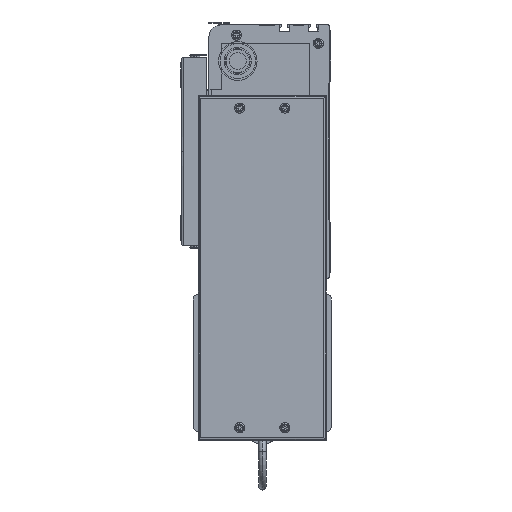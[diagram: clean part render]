
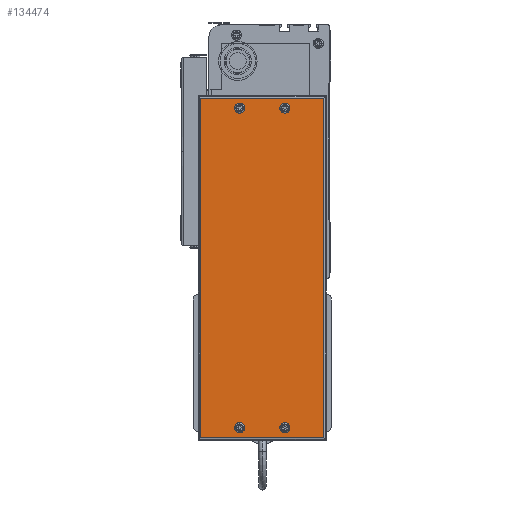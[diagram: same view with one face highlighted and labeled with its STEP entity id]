
A CAD part, left-side view. The second image highlights one B-rep face of the part: STEP entity #134474.
In plain terms, the highlighted planar face has unit normal (-1, 0, 0) as drawn and (1, 0, 0) by its records, which use the part's own axes.
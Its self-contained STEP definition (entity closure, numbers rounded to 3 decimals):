
#133626 = VERTEX_POINT ( 'NONE', #144906 ) ;
#133633 = VERTEX_POINT ( 'NONE', #144854 ) ;
#133819 = VERTEX_POINT ( 'NONE', #145511 ) ;
#133893 = EDGE_CURVE ( 'NONE', #133626, #133633, #145639, .T. ) ;
#133895 = VERTEX_POINT ( 'NONE', #145641 ) ;
#133898 = VERTEX_POINT ( 'NONE', #145640 ) ;
#133904 = EDGE_CURVE ( 'NONE', #133819, #133898, #145549, .T. ) ;
#133977 = VERTEX_POINT ( 'NONE', #146305 ) ;
#133979 = EDGE_CURVE ( 'NONE', #133895, #133977, #146289, .T. ) ;
#134178 = ORIENTED_EDGE ( 'NONE', *, *, #134224, .T. ) ;
#134181 = EDGE_CURVE ( 'NONE', #134222, #134237, #147017, .T. ) ;
#134183 = EDGE_CURVE ( 'NONE', #133633, #133626, #147016, .T. ) ;
#134185 = ORIENTED_EDGE ( 'NONE', *, *, #134181, .T. ) ;
#134204 = VERTEX_POINT ( 'NONE', #147179 ) ;
#134222 = VERTEX_POINT ( 'NONE', #147173 ) ;
#134224 = EDGE_CURVE ( 'NONE', #134239, #134222, #147154, .T. ) ;
#134233 = ORIENTED_EDGE ( 'NONE', *, *, #133904, .F. ) ;
#134237 = VERTEX_POINT ( 'NONE', #147123 ) ;
#134239 = VERTEX_POINT ( 'NONE', #147167 ) ;
#134252 = VERTEX_POINT ( 'NONE', #147130 ) ;
#134408 = EDGE_LOOP ( 'NONE', ( #134412, #134233 ) ) ;
#134412 = ORIENTED_EDGE ( 'NONE', *, *, #134706, .F. ) ;
#134463 = ORIENTED_EDGE ( 'NONE', *, *, #133893, .F. ) ;
#134474 = ADVANCED_FACE ( 'NONE', ( #147313, #147235, #147306, #147318, #147328 ), #147323, .F. ) ;
#134476 = ORIENTED_EDGE ( 'NONE', *, *, #134481, .T. ) ;
#134478 = ORIENTED_EDGE ( 'NONE', *, *, #134485, .T. ) ;
#134481 = EDGE_CURVE ( 'NONE', #134252, #134239, #147407, .T. ) ;
#134485 = EDGE_CURVE ( 'NONE', #134237, #134252, #147399, .T. ) ;
#134508 = VERTEX_POINT ( 'NONE', #147410 ) ;
#134604 = EDGE_CURVE ( 'NONE', #133977, #133895, #147431, .T. ) ;
#134654 = EDGE_LOOP ( 'NONE', ( #134696, #134463 ) ) ;
#134660 = EDGE_LOOP ( 'NONE', ( #134478, #134476, #134178, #134185 ) ) ;
#134692 = EDGE_CURVE ( 'NONE', #134508, #134204, #147531, .T. ) ;
#134696 = ORIENTED_EDGE ( 'NONE', *, *, #134183, .F. ) ;
#134700 = EDGE_LOOP ( 'NONE', ( #134703, #134828 ) ) ;
#134703 = ORIENTED_EDGE ( 'NONE', *, *, #134604, .F. ) ;
#134706 = EDGE_CURVE ( 'NONE', #133898, #133819, #147488, .T. ) ;
#134809 = EDGE_LOOP ( 'NONE', ( #134825, #134905 ) ) ;
#134815 = EDGE_CURVE ( 'NONE', #134204, #134508, #147580, .T. ) ;
#134825 = ORIENTED_EDGE ( 'NONE', *, *, #134815, .F. ) ;
#134828 = ORIENTED_EDGE ( 'NONE', *, *, #133979, .F. ) ;
#134905 = ORIENTED_EDGE ( 'NONE', *, *, #134692, .F. ) ;
#144854 = CARTESIAN_POINT ( 'NONE',  ( 50., 10., -71.5 ) ) ;
#144906 = CARTESIAN_POINT ( 'NONE',  ( 50., 10., -66.5 ) ) ;
#145511 = CARTESIAN_POINT ( 'NONE',  ( 50., 10., -30.5 ) ) ;
#145549 = CIRCLE ( 'NONE', #145621, 2.5 ) ;
#145615 = DIRECTION ( 'NONE',  ( 0., 0., -1. ) ) ;
#145616 = DIRECTION ( 'NONE',  ( 1., 0., 0. ) ) ;
#145617 = CARTESIAN_POINT ( 'NONE',  ( 50., 10., -69. ) ) ;
#145618 = AXIS2_PLACEMENT_3D ( 'NONE', #145617, #145616, #145615 ) ;
#145621 = AXIS2_PLACEMENT_3D ( 'NONE', #145626, #145717, #145715 ) ;
#145626 = CARTESIAN_POINT ( 'NONE',  ( 50., 10., -33. ) ) ;
#145639 = CIRCLE ( 'NONE', #145618, 2.5 ) ;
#145640 = CARTESIAN_POINT ( 'NONE',  ( 50., 10., -35.5 ) ) ;
#145641 = CARTESIAN_POINT ( 'NONE',  ( 50., 264., -66.5 ) ) ;
#145715 = DIRECTION ( 'NONE',  ( 0., 0., -1. ) ) ;
#145717 = DIRECTION ( 'NONE',  ( 1., 0., 0. ) ) ;
#146213 = CARTESIAN_POINT ( 'NONE',  ( 50., 264., -69. ) ) ;
#146220 = DIRECTION ( 'NONE',  ( 1., 0., 0. ) ) ;
#146285 = DIRECTION ( 'NONE',  ( 0., 0., -1. ) ) ;
#146287 = AXIS2_PLACEMENT_3D ( 'NONE', #146213, #146220, #146285 ) ;
#146289 = CIRCLE ( 'NONE', #146287, 2.5 ) ;
#146305 = CARTESIAN_POINT ( 'NONE',  ( 50., 264., -71.5 ) ) ;
#147016 = CIRCLE ( 'NONE', #147031, 2.5 ) ;
#147017 = LINE ( 'NONE', #147092, #147091 ) ;
#147031 = AXIS2_PLACEMENT_3D ( 'NONE', #147108, #147080, #147078 ) ;
#147078 = DIRECTION ( 'NONE',  ( 0., 0., -1. ) ) ;
#147080 = DIRECTION ( 'NONE',  ( 1., 0., 0. ) ) ;
#147090 = DIRECTION ( 'NONE',  ( 0., 0., 1. ) ) ;
#147091 = VECTOR ( 'NONE', #147090, 1000. ) ;
#147092 = CARTESIAN_POINT ( 'NONE',  ( 50., 272., 0. ) ) ;
#147108 = CARTESIAN_POINT ( 'NONE',  ( 50., 10., -69. ) ) ;
#147123 = CARTESIAN_POINT ( 'NONE',  ( 50., 272., -2. ) ) ;
#147130 = CARTESIAN_POINT ( 'NONE',  ( 50., 2., -2. ) ) ;
#147141 = DIRECTION ( 'NONE',  ( 0., 1., 0. ) ) ;
#147143 = VECTOR ( 'NONE', #147141, 1000. ) ;
#147153 = CARTESIAN_POINT ( 'NONE',  ( 50., 274., -100. ) ) ;
#147154 = LINE ( 'NONE', #147153, #147143 ) ;
#147167 = CARTESIAN_POINT ( 'NONE',  ( 50., 2., -100. ) ) ;
#147173 = CARTESIAN_POINT ( 'NONE',  ( 50., 272., -100. ) ) ;
#147179 = CARTESIAN_POINT ( 'NONE',  ( 50., 264., -35.5 ) ) ;
#147235 = FACE_BOUND ( 'NONE', #134654, .T. ) ;
#147306 = FACE_BOUND ( 'NONE', #134408, .T. ) ;
#147311 = AXIS2_PLACEMENT_3D ( 'NONE', #147417, #147415, #147413 ) ;
#147313 = FACE_OUTER_BOUND ( 'NONE', #134660, .T. ) ;
#147318 = FACE_BOUND ( 'NONE', #134700, .T. ) ;
#147323 = PLANE ( 'NONE',  #147311 ) ;
#147328 = FACE_BOUND ( 'NONE', #134809, .T. ) ;
#147393 = DIRECTION ( 'NONE',  ( 0., -1., 0. ) ) ;
#147395 = VECTOR ( 'NONE', #147393, 1000. ) ;
#147398 = CARTESIAN_POINT ( 'NONE',  ( 50., 274., -2. ) ) ;
#147399 = LINE ( 'NONE', #147398, #147395 ) ;
#147402 = DIRECTION ( 'NONE',  ( 0., 0., -1. ) ) ;
#147403 = VECTOR ( 'NONE', #147402, 1000. ) ;
#147405 = CARTESIAN_POINT ( 'NONE',  ( 50., 2., 0. ) ) ;
#147407 = LINE ( 'NONE', #147405, #147403 ) ;
#147410 = CARTESIAN_POINT ( 'NONE',  ( 50., 264., -30.5 ) ) ;
#147413 = DIRECTION ( 'NONE',  ( 0., 0., 1. ) ) ;
#147415 = DIRECTION ( 'NONE',  ( -1., 0., 0. ) ) ;
#147417 = CARTESIAN_POINT ( 'NONE',  ( 50., 274., 0. ) ) ;
#147431 = CIRCLE ( 'NONE', #147457, 2.5 ) ;
#147439 = CARTESIAN_POINT ( 'NONE',  ( 50., 264., -69. ) ) ;
#147457 = AXIS2_PLACEMENT_3D ( 'NONE', #147439, #147540, #147539 ) ;
#147481 = CARTESIAN_POINT ( 'NONE',  ( 50., 264., -33. ) ) ;
#147488 = CIRCLE ( 'NONE', #147587, 2.5 ) ;
#147513 = DIRECTION ( 'NONE',  ( 1., 0., 0. ) ) ;
#147531 = CIRCLE ( 'NONE', #147541, 2.5 ) ;
#147539 = DIRECTION ( 'NONE',  ( 0., 0., -1. ) ) ;
#147540 = DIRECTION ( 'NONE',  ( 1., 0., 0. ) ) ;
#147541 = AXIS2_PLACEMENT_3D ( 'NONE', #147481, #147513, #147598 ) ;
#147569 = DIRECTION ( 'NONE',  ( 0., 0., -1. ) ) ;
#147571 = DIRECTION ( 'NONE',  ( 1., 0., 0. ) ) ;
#147580 = CIRCLE ( 'NONE', #147591, 2.5 ) ;
#147582 = DIRECTION ( 'NONE',  ( 0., 0., -1. ) ) ;
#147584 = DIRECTION ( 'NONE',  ( 1., 0., 0. ) ) ;
#147586 = CARTESIAN_POINT ( 'NONE',  ( 50., 10., -33. ) ) ;
#147587 = AXIS2_PLACEMENT_3D ( 'NONE', #147586, #147584, #147582 ) ;
#147590 = CARTESIAN_POINT ( 'NONE',  ( 50., 264., -33. ) ) ;
#147591 = AXIS2_PLACEMENT_3D ( 'NONE', #147590, #147571, #147569 ) ;
#147598 = DIRECTION ( 'NONE',  ( 0., 0., -1. ) ) ;
